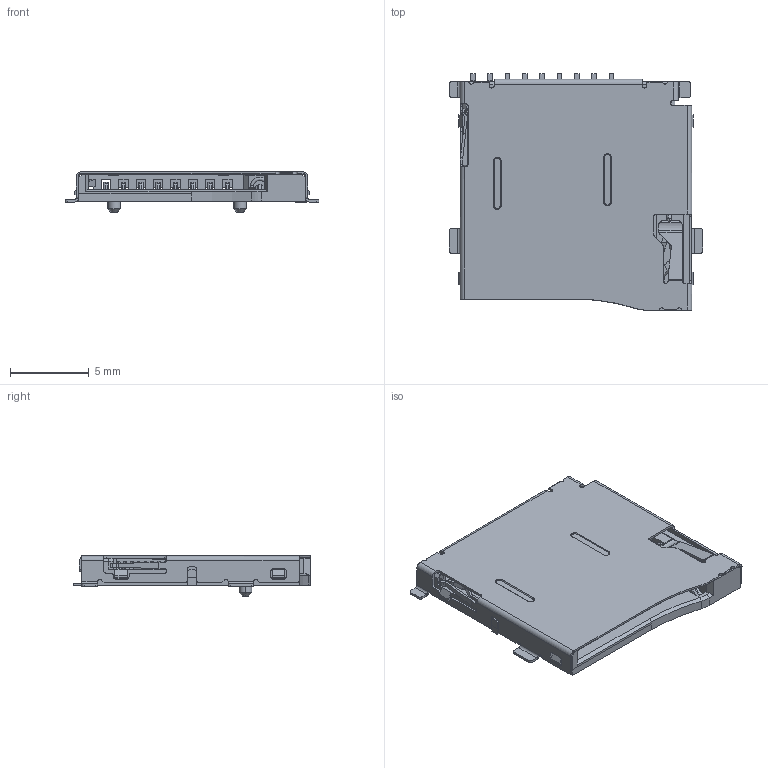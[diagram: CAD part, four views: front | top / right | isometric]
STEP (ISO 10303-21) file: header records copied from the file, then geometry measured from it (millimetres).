
FILE_DESCRIPTION (( 'STEP AP214' ), '1' );
FILE_NAME ('TF-SMD_TF-01A.STEP', '2025-03-18T05:49:16', ( '' ), ( '' ), 'SwSTEP 2.0', 'SolidWorks 2021', '' );
FILE_SCHEMA (( 'AUTOMOTIVE_DESIGN' ));
Length unit declared in the file: millimetre
Products named in the file (1): TF-SMD_TF-01A
Bounding box: 16.1 x 15 x 2.55 mm (x, y, z)
Volume: 182.1 mm3; surface area: 1245.8 mm2
Topology: 1 solids, 3 shells, 1738 faces, 4707 edges, 2909 vertices
Faces by surface type: plane 1353, cylinder 296, cone 41, torus 26, bspline 21, sphere 1
Entity records: 79998 total; most frequent: CARTESIAN_POINT 17434, ORIENTED_EDGE 9412, DIRECTION 8502, EDGE_CURVE 4706, LINE 3814, VECTOR 3814, VERTEX_POINT 2909, AXIS2_PLACEMENT_3D 2344
